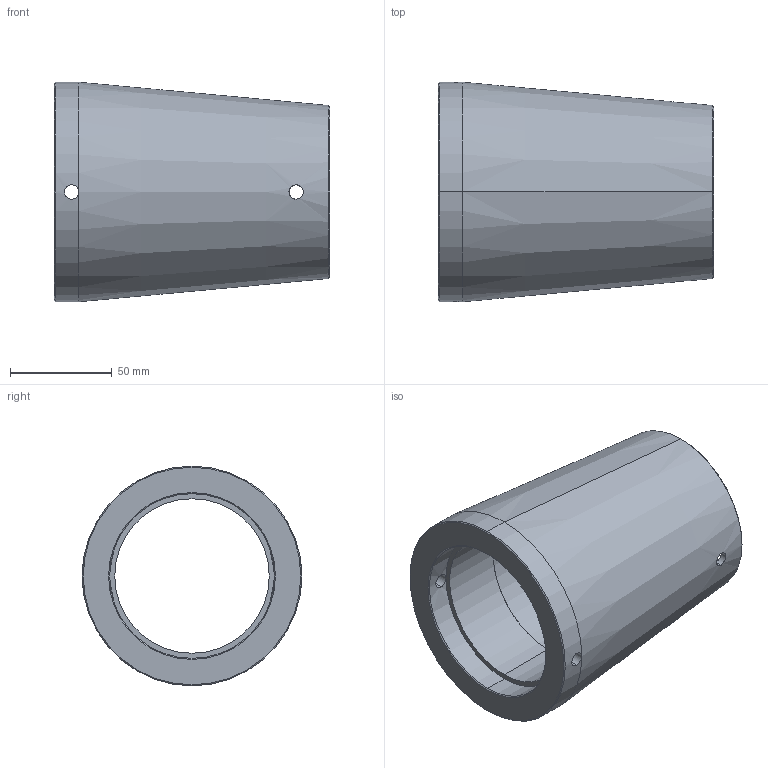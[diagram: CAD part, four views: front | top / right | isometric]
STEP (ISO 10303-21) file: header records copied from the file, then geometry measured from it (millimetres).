
FILE_DESCRIPTION (( 'STEP AP203' ), '1' );
FILE_NAME ('Abdeckhülse M76.STEP', '2018-02-20T06:53:46', ( 'install' ), ( 'Hewlett-Packard Company' ), 'SwSTEP 2.0', 'SolidWorks 2017', '' );
FILE_SCHEMA (( 'CONFIG_CONTROL_DESIGN' ));
Length unit declared in the file: millimetre
Products named in the file (1): Abdeckhülse M76
Bounding box: 135.4 x 108 x 108 mm (x, y, z)
Volume: 372567.8 mm3; surface area: 80661.2 mm2
Topology: 1 solids, 1 shells, 31 faces, 82 edges, 50 vertices
Faces by surface type: cylinder 18, cone 8, plane 5
Entity records: 1535 total; most frequent: CARTESIAN_POINT 688, ORIENTED_EDGE 164, DIRECTION 158, EDGE_CURVE 82, AXIS2_PLACEMENT_3D 66, VERTEX_POINT 50, EDGE_LOOP 38, CIRCLE 34
